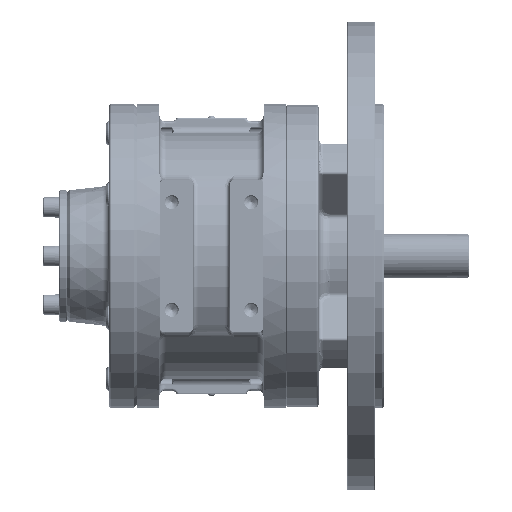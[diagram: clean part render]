
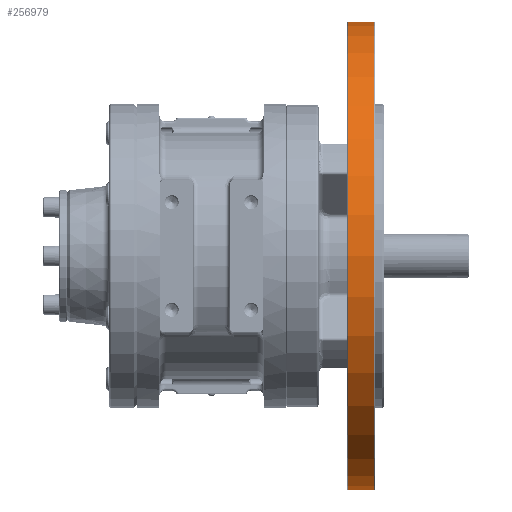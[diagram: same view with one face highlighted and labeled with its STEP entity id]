
A CAD part, front view. The second image highlights one B-rep face of the part: STEP entity #256979.
In plain terms, the highlighted cylindrical face has radius 100 mm (diameter 200 mm), a partial arc.
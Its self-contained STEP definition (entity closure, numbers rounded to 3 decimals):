
#3210 = CARTESIAN_POINT ( 'NONE',  ( 58.28, 4.75, 100. ) ) ;
#8432 = AXIS2_PLACEMENT_3D ( 'NONE', #222091, #179578, #156383 ) ;
#10455 = CARTESIAN_POINT ( 'NONE',  ( 69.58, 4.75, 0. ) ) ;
#10511 = CARTESIAN_POINT ( 'NONE',  ( 69.58, 4.75, -100. ) ) ;
#11365 = LINE ( 'NONE', #218752, #228971 ) ;
#26310 = ORIENTED_EDGE ( 'NONE', *, *, #41927, .T. ) ;
#35990 = VERTEX_POINT ( 'NONE', #117342 ) ;
#41927 = EDGE_CURVE ( 'NONE', #85445, #148782, #178127, .T. ) ;
#51108 = EDGE_CURVE ( 'NONE', #148782, #237421, #101401, .T. ) ;
#56814 = CIRCLE ( 'NONE', #8432, 100. ) ;
#71220 = EDGE_LOOP ( 'NONE', ( #257723, #26310, #143003, #202238 ) ) ;
#85445 = VERTEX_POINT ( 'NONE', #10511 ) ;
#86586 = DIRECTION ( 'NONE',  ( -1., 0., 0. ) ) ;
#87886 = EDGE_CURVE ( 'NONE', #35990, #237421, #56814, .T. ) ;
#101401 = LINE ( 'NONE', #110690, #111887 ) ;
#110690 = CARTESIAN_POINT ( 'NONE',  ( 55.78, 4.75, 100. ) ) ;
#111887 = VECTOR ( 'NONE', #201448, 1000. ) ;
#116870 = EDGE_CURVE ( 'NONE', #85445, #35990, #11365, .T. ) ;
#117342 = CARTESIAN_POINT ( 'NONE',  ( 58.28, 4.75, -100. ) ) ;
#118678 = CYLINDRICAL_SURFACE ( 'NONE', #233966, 100. ) ;
#140852 = DIRECTION ( 'NONE',  ( -1., 0., 0. ) ) ;
#143003 = ORIENTED_EDGE ( 'NONE', *, *, #51108, .T. ) ;
#148782 = VERTEX_POINT ( 'NONE', #175254 ) ;
#156383 = DIRECTION ( 'NONE',  ( 0., 0., 1. ) ) ;
#161371 = AXIS2_PLACEMENT_3D ( 'NONE', #10455, #140852, #227856 ) ;
#175254 = CARTESIAN_POINT ( 'NONE',  ( 69.58, 4.75, 100. ) ) ;
#176409 = DIRECTION ( 'NONE',  ( 0., 0., 1. ) ) ;
#178127 = CIRCLE ( 'NONE', #161371, 100. ) ;
#178324 = CARTESIAN_POINT ( 'NONE',  ( 55.78, 4.75, 0. ) ) ;
#179578 = DIRECTION ( 'NONE',  ( -1., 0., 0. ) ) ;
#201448 = DIRECTION ( 'NONE',  ( -1., 0., 0. ) ) ;
#202238 = ORIENTED_EDGE ( 'NONE', *, *, #87886, .F. ) ;
#218752 = CARTESIAN_POINT ( 'NONE',  ( 55.78, 4.75, -100. ) ) ;
#222091 = CARTESIAN_POINT ( 'NONE',  ( 58.28, 4.75, 0. ) ) ;
#222752 = DIRECTION ( 'NONE',  ( -1., 0., 0. ) ) ;
#227856 = DIRECTION ( 'NONE',  ( 0., 0., 1. ) ) ;
#228971 = VECTOR ( 'NONE', #86586, 1000. ) ;
#233966 = AXIS2_PLACEMENT_3D ( 'NONE', #178324, #222752, #176409 ) ;
#236279 = FACE_OUTER_BOUND ( 'NONE', #71220, .T. ) ;
#237421 = VERTEX_POINT ( 'NONE', #3210 ) ;
#256979 = ADVANCED_FACE ( 'NONE', ( #236279 ), #118678, .T. ) ;
#257723 = ORIENTED_EDGE ( 'NONE', *, *, #116870, .F. ) ;
